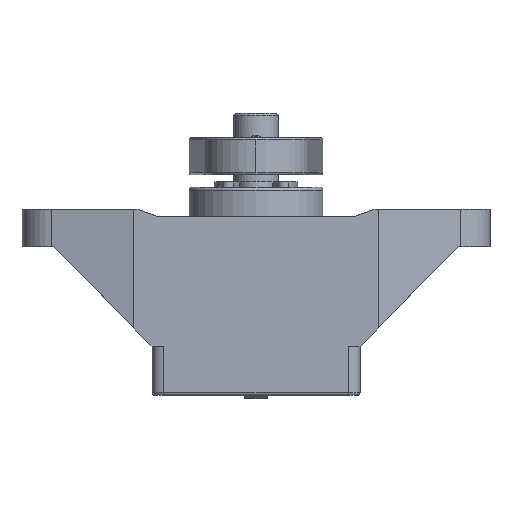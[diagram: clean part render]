
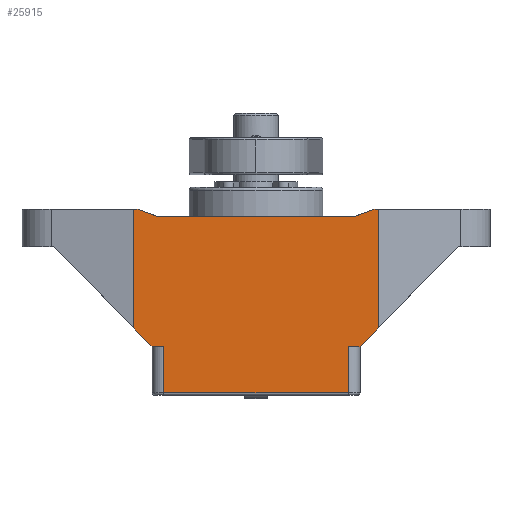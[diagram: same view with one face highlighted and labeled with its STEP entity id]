
A CAD part, front view. The second image highlights one B-rep face of the part: STEP entity #25915.
In plain terms, the highlighted planar face has unit normal (0, -1, 0).
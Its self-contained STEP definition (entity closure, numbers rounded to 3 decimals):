
#211 = EDGE_CURVE ( 'NONE', #6696, #12530, #6704, .T. ) ;
#324 = LINE ( 'NONE', #4262, #23811 ) ;
#411 = ORIENTED_EDGE ( 'NONE', *, *, #6045, .F. ) ;
#707 = LINE ( 'NONE', #6293, #18944 ) ;
#1053 = AXIS2_PLACEMENT_3D ( 'NONE', #4363, #22862, #24899 ) ;
#1063 = CARTESIAN_POINT ( 'NONE',  ( 16.5, -13., -18.943 ) ) ;
#1093 = CARTESIAN_POINT ( 'NONE',  ( -16.5, -13., -18.943 ) ) ;
#1184 = CARTESIAN_POINT ( 'NONE',  ( 16.5, -13., -3. ) ) ;
#1295 = ORIENTED_EDGE ( 'NONE', *, *, #24158, .F. ) ;
#1503 = VERTEX_POINT ( 'NONE', #22719 ) ;
#2050 = EDGE_CURVE ( 'NONE', #12530, #14088, #7042, .T. ) ;
#2350 = DIRECTION ( 'NONE',  ( 0., 0., -1. ) ) ;
#2613 = ORIENTED_EDGE ( 'NONE', *, *, #211, .F. ) ;
#3054 = CARTESIAN_POINT ( 'NONE',  ( 12.4, -13., -21.5 ) ) ;
#3682 = CARTESIAN_POINT ( 'NONE',  ( 15.883, -13., -3. ) ) ;
#4084 = PLANE ( 'NONE',  #1053 ) ;
#4258 = DIRECTION ( 'NONE',  ( 0.94, 0., 0.342 ) ) ;
#4262 = CARTESIAN_POINT ( 'NONE',  ( -14., -13., -21.5 ) ) ;
#4363 = CARTESIAN_POINT ( 'NONE',  ( -14., -13., -28. ) ) ;
#4404 = CARTESIAN_POINT ( 'NONE',  ( 16.5, -13., -8. ) ) ;
#4567 = LINE ( 'NONE', #4835, #6124 ) ;
#4835 = CARTESIAN_POINT ( 'NONE',  ( -14., -13., -21.5 ) ) ;
#4997 = ORIENTED_EDGE ( 'NONE', *, *, #10147, .F. ) ;
#5222 = VERTEX_POINT ( 'NONE', #14211 ) ;
#5814 = VECTOR ( 'NONE', #12718, 1000. ) ;
#5996 = VERTEX_POINT ( 'NONE', #22404 ) ;
#6045 = EDGE_CURVE ( 'NONE', #26878, #22384, #12210, .T. ) ;
#6124 = VECTOR ( 'NONE', #25250, 1000. ) ;
#6230 = VECTOR ( 'NONE', #12938, 1000. ) ;
#6278 = VECTOR ( 'NONE', #23356, 1000. ) ;
#6293 = CARTESIAN_POINT ( 'NONE',  ( 14., -13., -21.5 ) ) ;
#6547 = FACE_OUTER_BOUND ( 'NONE', #23974, .T. ) ;
#6587 = LINE ( 'NONE', #4404, #5814 ) ;
#6588 = EDGE_CURVE ( 'NONE', #10673, #14088, #6587, .T. ) ;
#6598 = ORIENTED_EDGE ( 'NONE', *, *, #22905, .F. ) ;
#6628 = DIRECTION ( 'NONE',  ( 0., 0., -1. ) ) ;
#6696 = VERTEX_POINT ( 'NONE', #21944 ) ;
#6704 = LINE ( 'NONE', #18822, #24171 ) ;
#7042 = LINE ( 'NONE', #16979, #10784 ) ;
#7298 = ORIENTED_EDGE ( 'NONE', *, *, #23038, .T. ) ;
#7795 = DIRECTION ( 'NONE',  ( 1., 0., 0. ) ) ;
#8183 = CARTESIAN_POINT ( 'NONE',  ( -15.883, -13., -3. ) ) ;
#8273 = CARTESIAN_POINT ( 'NONE',  ( -14., -13., -3. ) ) ;
#8326 = CARTESIAN_POINT ( 'NONE',  ( -15.883, -13., -3. ) ) ;
#8477 = LINE ( 'NONE', #10515, #10619 ) ;
#8855 = VECTOR ( 'NONE', #19454, 1000. ) ;
#9116 = VERTEX_POINT ( 'NONE', #17700 ) ;
#9150 = VERTEX_POINT ( 'NONE', #1093 ) ;
#10147 = EDGE_CURVE ( 'NONE', #25057, #24576, #707, .T. ) ;
#10515 = CARTESIAN_POINT ( 'NONE',  ( 14., -13., -21.5 ) ) ;
#10619 = VECTOR ( 'NONE', #24769, 1000. ) ;
#10673 = VERTEX_POINT ( 'NONE', #1063 ) ;
#10784 = VECTOR ( 'NONE', #21600, 1000. ) ;
#10916 = EDGE_CURVE ( 'NONE', #24576, #1503, #12899, .T. ) ;
#11064 = LINE ( 'NONE', #12836, #13236 ) ;
#11172 = CARTESIAN_POINT ( 'NONE',  ( 12.4, -13., -27.7 ) ) ;
#11349 = ORIENTED_EDGE ( 'NONE', *, *, #6588, .T. ) ;
#11788 = ORIENTED_EDGE ( 'NONE', *, *, #2050, .F. ) ;
#12016 = LINE ( 'NONE', #12145, #13910 ) ;
#12145 = CARTESIAN_POINT ( 'NONE',  ( -8.9, -13., -4. ) ) ;
#12210 = LINE ( 'NONE', #8273, #24038 ) ;
#12216 = ORIENTED_EDGE ( 'NONE', *, *, #12307, .F. ) ;
#12307 = EDGE_CURVE ( 'NONE', #5222, #5996, #324, .T. ) ;
#12530 = VERTEX_POINT ( 'NONE', #3682 ) ;
#12718 = DIRECTION ( 'NONE',  ( 0., 0., 1. ) ) ;
#12836 = CARTESIAN_POINT ( 'NONE',  ( -12.4, -13., -19.237 ) ) ;
#12899 = LINE ( 'NONE', #25263, #25063 ) ;
#12938 = DIRECTION ( 'NONE',  ( 0.94, 0., -0.342 ) ) ;
#13236 = VECTOR ( 'NONE', #2350, 1000. ) ;
#13783 = CARTESIAN_POINT ( 'NONE',  ( -16.5, -13., -3. ) ) ;
#13910 = VECTOR ( 'NONE', #7795, 1000. ) ;
#14088 = VERTEX_POINT ( 'NONE', #1184 ) ;
#14211 = CARTESIAN_POINT ( 'NONE',  ( -12.4, -13., -21.5 ) ) ;
#14518 = CARTESIAN_POINT ( 'NONE',  ( -13.136, -13., -4. ) ) ;
#14535 = EDGE_CURVE ( 'NONE', #21876, #6696, #12016, .T. ) ;
#14695 = LINE ( 'NONE', #8326, #6230 ) ;
#15067 = CARTESIAN_POINT ( 'NONE',  ( -16.5, -13., -8. ) ) ;
#15629 = LINE ( 'NONE', #11172, #8855 ) ;
#16011 = DIRECTION ( 'NONE',  ( 1., 0., 0. ) ) ;
#16368 = DIRECTION ( 'NONE',  ( -1., 0., 0. ) ) ;
#16979 = CARTESIAN_POINT ( 'NONE',  ( 14., -13., -3. ) ) ;
#17700 = CARTESIAN_POINT ( 'NONE',  ( -12.4, -13., -27.7 ) ) ;
#17753 = EDGE_CURVE ( 'NONE', #5996, #9150, #4567, .T. ) ;
#18822 = CARTESIAN_POINT ( 'NONE',  ( 15.883, -13., -3. ) ) ;
#18897 = LINE ( 'NONE', #15067, #6278 ) ;
#18916 = ORIENTED_EDGE ( 'NONE', *, *, #14535, .F. ) ;
#18944 = VECTOR ( 'NONE', #19083, 1000. ) ;
#19083 = DIRECTION ( 'NONE',  ( -1., 0., 0. ) ) ;
#19303 = ORIENTED_EDGE ( 'NONE', *, *, #25251, .F. ) ;
#19454 = DIRECTION ( 'NONE',  ( 1., 0., 0. ) ) ;
#20734 = ORIENTED_EDGE ( 'NONE', *, *, #17753, .F. ) ;
#21417 = ORIENTED_EDGE ( 'NONE', *, *, #10916, .F. ) ;
#21600 = DIRECTION ( 'NONE',  ( 1., 0., 0. ) ) ;
#21876 = VERTEX_POINT ( 'NONE', #14518 ) ;
#21944 = CARTESIAN_POINT ( 'NONE',  ( 13.136, -13., -4. ) ) ;
#22384 = VERTEX_POINT ( 'NONE', #8183 ) ;
#22404 = CARTESIAN_POINT ( 'NONE',  ( -14., -13., -21.5 ) ) ;
#22465 = CARTESIAN_POINT ( 'NONE',  ( 14., -13., -21.5 ) ) ;
#22719 = CARTESIAN_POINT ( 'NONE',  ( 12.4, -13., -27.7 ) ) ;
#22862 = DIRECTION ( 'NONE',  ( 0., -1., 0. ) ) ;
#22905 = EDGE_CURVE ( 'NONE', #22384, #21876, #14695, .T. ) ;
#23038 = EDGE_CURVE ( 'NONE', #9116, #1503, #15629, .T. ) ;
#23356 = DIRECTION ( 'NONE',  ( 0., 0., 1. ) ) ;
#23811 = VECTOR ( 'NONE', #16368, 1000. ) ;
#23974 = EDGE_LOOP ( 'NONE', ( #26284, #7298, #21417, #4997, #19303, #11349, #11788, #2613, #18916, #6598, #411, #1295, #20734, #12216 ) ) ;
#24038 = VECTOR ( 'NONE', #16011, 1000. ) ;
#24158 = EDGE_CURVE ( 'NONE', #9150, #26878, #18897, .T. ) ;
#24171 = VECTOR ( 'NONE', #4258, 1000. ) ;
#24576 = VERTEX_POINT ( 'NONE', #3054 ) ;
#24769 = DIRECTION ( 'NONE',  ( -0.699, 0., -0.715 ) ) ;
#24899 = DIRECTION ( 'NONE',  ( 0., 0., -1. ) ) ;
#25057 = VERTEX_POINT ( 'NONE', #22465 ) ;
#25063 = VECTOR ( 'NONE', #6628, 1000. ) ;
#25250 = DIRECTION ( 'NONE',  ( -0.699, 0., 0.715 ) ) ;
#25251 = EDGE_CURVE ( 'NONE', #10673, #25057, #8477, .T. ) ;
#25263 = CARTESIAN_POINT ( 'NONE',  ( 12.4, -13., -19.237 ) ) ;
#25617 = EDGE_CURVE ( 'NONE', #5222, #9116, #11064, .T. ) ;
#25915 = ADVANCED_FACE ( 'NONE', ( #6547 ), #4084, .T. ) ;
#26284 = ORIENTED_EDGE ( 'NONE', *, *, #25617, .T. ) ;
#26878 = VERTEX_POINT ( 'NONE', #13783 ) ;
